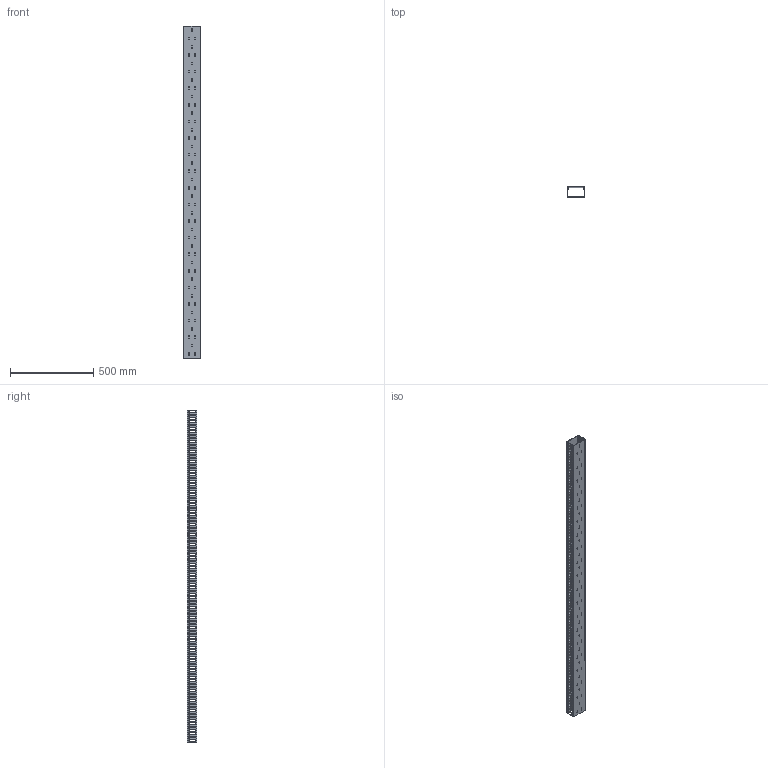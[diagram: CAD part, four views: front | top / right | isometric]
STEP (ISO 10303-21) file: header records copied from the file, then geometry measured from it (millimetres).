
FILE_DESCRIPTION (( 'STEP AP214' ), '1' );
FILE_NAME ('KD-106-20-T.STEP', '2020-02-19T01:18:06', ( '' ), ( '' ), 'SwSTEP 2.0', 'SolidWorks 2018', '' );
FILE_SCHEMA (( 'AUTOMOTIVE_DESIGN' ));
Length unit declared in the file: millimetre
Products named in the file (3): KD-106-20-T; KD-106-20-cover; KD-106-20-T-body
Assembly tree (2 placements, depth 2):
  KD-106-20-T
    KD-106-20-T-body
    KD-106-20-cover
Bounding box: 100 x 60.17 x 2000 mm (x, y, z)
Volume: 1032939.5 mm3; surface area: 1301992.1 mm2
Topology: 2 solids, 2 shells, 2971 faces, 10101 edges, 6734 vertices
Faces by surface type: plane 1750, cylinder 1221
Entity records: 111547 total; most frequent: ORIENTED_EDGE 20202, CARTESIAN_POINT 19811, DIRECTION 19295, EDGE_CURVE 10101, LINE 6859, VECTOR 6859, VERTEX_POINT 6734, AXIS2_PLACEMENT_3D 6218
